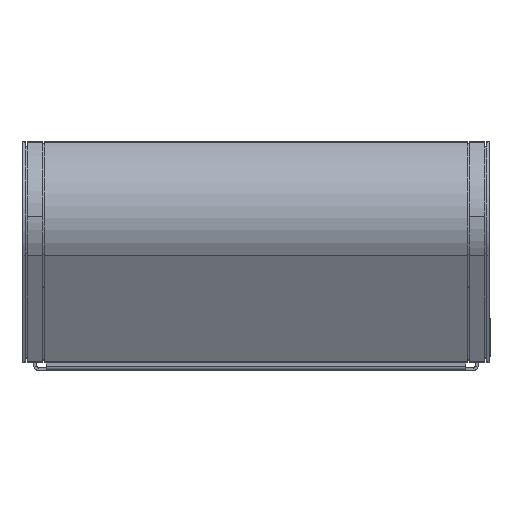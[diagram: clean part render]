
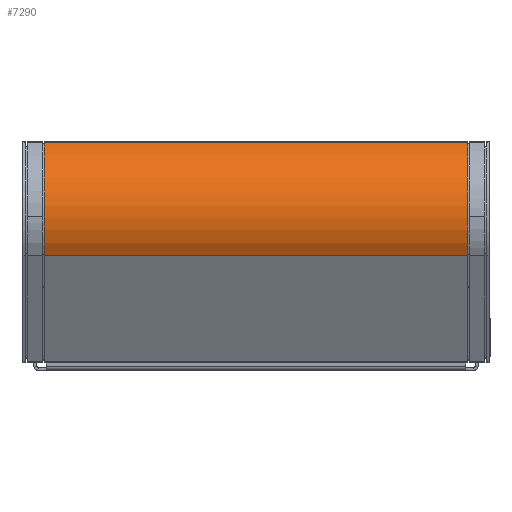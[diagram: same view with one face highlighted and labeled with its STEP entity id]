
A CAD part, left-side view. The second image highlights one B-rep face of the part: STEP entity #7290.
In plain terms, the highlighted free-form (B-spline) face has degree [3, 1] with [4, 2] control points.
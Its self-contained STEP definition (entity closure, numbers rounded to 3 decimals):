
#766 = CARTESIAN_POINT ( 'NONE',  ( -33.354, 110., 38.692 ) ) ;
#1398 = CARTESIAN_POINT ( 'NONE',  ( -51.951, 110., -20.358 ) ) ;
#1605 = CARTESIAN_POINT ( 'NONE',  ( -57.107, -110.05, 24.719 ) ) ;
#2498 = VECTOR ( 'NONE', #16263, 1000. ) ;
#3711 =( BOUNDED_SURFACE ( )  B_SPLINE_SURFACE ( 3, 1, ( 
 ( #1398, #8562 ),
 ( #13156, #17961 ),
 ( #10610, #1605 ),
 ( #27268, #15219 ) ),
 .UNSPECIFIED., .F., .F., .F. ) 
 B_SPLINE_SURFACE_WITH_KNOTS ( ( 4, 4 ),
 ( 2, 2 ),
 ( 0., 1. ),
 ( 0., 1. ),
 .UNSPECIFIED. ) 
 GEOMETRIC_REPRESENTATION_ITEM ( )  RATIONAL_B_SPLINE_SURFACE ( (
 ( 1., 1.),
 ( 0.844, 0.844),
 ( 0.844, 0.844),
 ( 1., 1.) ) ) 
 REPRESENTATION_ITEM ( '' )  SURFACE ( )  );
#4103 = CARTESIAN_POINT ( 'NONE',  ( -64.449, 110., 1.406 ) ) ;
#4311 = VECTOR ( 'NONE', #19260, 1000. ) ;
#4691 = FACE_OUTER_BOUND ( 'NONE', #13434, .T. ) ;
#4919 = CARTESIAN_POINT ( 'NONE',  ( -33.354, -110., 38.692 ) ) ;
#5391 = CARTESIAN_POINT ( 'NONE',  ( -33.354, -110.05, 38.692 ) ) ;
#6481 = ORIENTED_EDGE ( 'NONE', *, *, #30087, .T. ) ;
#7290 = ADVANCED_FACE ( 'NONE', ( #4691 ), #3711, .F. ) ;
#8002 = LINE ( 'NONE', #4919, #2498 ) ;
#8562 = CARTESIAN_POINT ( 'NONE',  ( -51.951, -110.05, -20.358 ) ) ;
#8918 = CARTESIAN_POINT ( 'NONE',  ( -33.354, 110., 38.692 ) ) ;
#9519 = ORIENTED_EDGE ( 'NONE', *, *, #24785, .F. ) ;
#10610 = CARTESIAN_POINT ( 'NONE',  ( -57.107, 110., 24.719 ) ) ;
#11174 = VERTEX_POINT ( 'NONE', #21818 ) ;
#12427 = ORIENTED_EDGE ( 'NONE', *, *, #17269, .T. ) ;
#13156 = CARTESIAN_POINT ( 'NONE',  ( -64.449, 110., 1.406 ) ) ;
#13434 = EDGE_LOOP ( 'NONE', ( #12427, #6481, #18751, #9519 ) ) ;
#15219 = CARTESIAN_POINT ( 'NONE',  ( -33.354, -110.05, 38.692 ) ) ;
#16079 =( BOUNDED_CURVE ( )  B_SPLINE_CURVE ( 3, ( #26118, #26428, #16724, #5391 ),
 .UNSPECIFIED., .F., .F. ) 
 B_SPLINE_CURVE_WITH_KNOTS ( ( 4, 4 ),
 ( 2.699, 4.094 ),
 .UNSPECIFIED. ) 
 CURVE ( )  GEOMETRIC_REPRESENTATION_ITEM ( )  RATIONAL_B_SPLINE_CURVE ( ( 1., 0.844, 0.844, 1. ) ) 
 REPRESENTATION_ITEM ( '' )  );
#16263 = DIRECTION ( 'NONE',  ( 0., 1., 0. ) ) ;
#16724 = CARTESIAN_POINT ( 'NONE',  ( -57.107, -110.05, 24.719 ) ) ;
#17269 = EDGE_CURVE ( 'NONE', #28926, #17842, #29579, .T. ) ;
#17396 = VERTEX_POINT ( 'NONE', #766 ) ;
#17842 = VERTEX_POINT ( 'NONE', #29492 ) ;
#17961 = CARTESIAN_POINT ( 'NONE',  ( -64.449, -110.05, 1.406 ) ) ;
#18194 = CARTESIAN_POINT ( 'NONE',  ( -51.951, 110., -20.358 ) ) ;
#18391 = CARTESIAN_POINT ( 'NONE',  ( -57.107, 110., 24.719 ) ) ;
#18751 = ORIENTED_EDGE ( 'NONE', *, *, #25023, .T. ) ;
#19260 = DIRECTION ( 'NONE',  ( 0., -1., 0. ) ) ;
#21818 = CARTESIAN_POINT ( 'NONE',  ( -33.354, -110.05, 38.692 ) ) ;
#24785 = EDGE_CURVE ( 'NONE', #28926, #17396, #26945, .T. ) ;
#25023 = EDGE_CURVE ( 'NONE', #11174, #17396, #8002, .T. ) ;
#26118 = CARTESIAN_POINT ( 'NONE',  ( -51.951, -110.05, -20.358 ) ) ;
#26428 = CARTESIAN_POINT ( 'NONE',  ( -64.449, -110.05, 1.406 ) ) ;
#26725 = CARTESIAN_POINT ( 'NONE',  ( -51.951, 110., -20.358 ) ) ;
#26945 =( BOUNDED_CURVE ( )  B_SPLINE_CURVE ( 3, ( #18194, #4103, #18391, #8918 ),
 .UNSPECIFIED., .F., .F. ) 
 B_SPLINE_CURVE_WITH_KNOTS ( ( 4, 4 ),
 ( 2.699, 4.094 ),
 .UNSPECIFIED. ) 
 CURVE ( )  GEOMETRIC_REPRESENTATION_ITEM ( )  RATIONAL_B_SPLINE_CURVE ( ( 1., 0.844, 0.844, 1. ) ) 
 REPRESENTATION_ITEM ( '' )  );
#27268 = CARTESIAN_POINT ( 'NONE',  ( -33.354, 110., 38.692 ) ) ;
#28373 = CARTESIAN_POINT ( 'NONE',  ( -51.951, 110., -20.358 ) ) ;
#28926 = VERTEX_POINT ( 'NONE', #26725 ) ;
#29492 = CARTESIAN_POINT ( 'NONE',  ( -51.951, -110.05, -20.358 ) ) ;
#29579 = LINE ( 'NONE', #28373, #4311 ) ;
#30087 = EDGE_CURVE ( 'NONE', #17842, #11174, #16079, .T. ) ;
